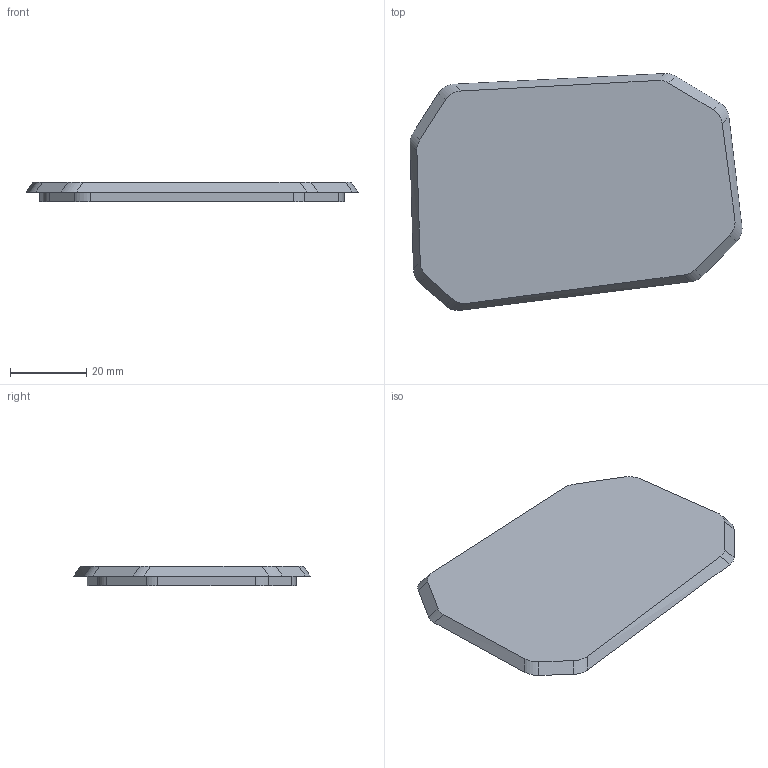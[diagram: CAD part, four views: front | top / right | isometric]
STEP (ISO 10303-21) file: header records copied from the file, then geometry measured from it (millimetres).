
FILE_DESCRIPTION(('Open CASCADE Model'),'2;1');
FILE_NAME('Open CASCADE Shape Model','2026-09-13T15:26:29',('Author'),( 'Open CASCADE'),'Open CASCADE STEP processor 7.9','build123d', 'Unknown');
FILE_SCHEMA(('AUTOMOTIVE_DESIGN { 1 0 10303 214 1 1 1 1 }'));
Length unit declared in the file: millimetre
Products named in the file (2): =>[0:1:1:2]; COMPOUND
Assembly tree (1 placements, depth 2):
  =>[0:1:1:2]
    COMPOUND
Bounding box: 87.3 x 62.28 x 5.1 mm (x, y, z)
Volume: 20529.8 mm3; surface area: 10157.8 mm2
Topology: 1 solids, 1 shells, 35 faces, 96 edges, 64 vertices
Faces by surface type: bspline 16, plane 11, cylinder 8
Entity records: 2502 total; most frequent: CARTESIAN_POINT 653, DIRECTION 314, ORIENTED_EDGE 192, LINE 192, VECTOR 192, PCURVE 192, DEFINITIONAL_REPRESENTATION 192, EDGE_CURVE 96
